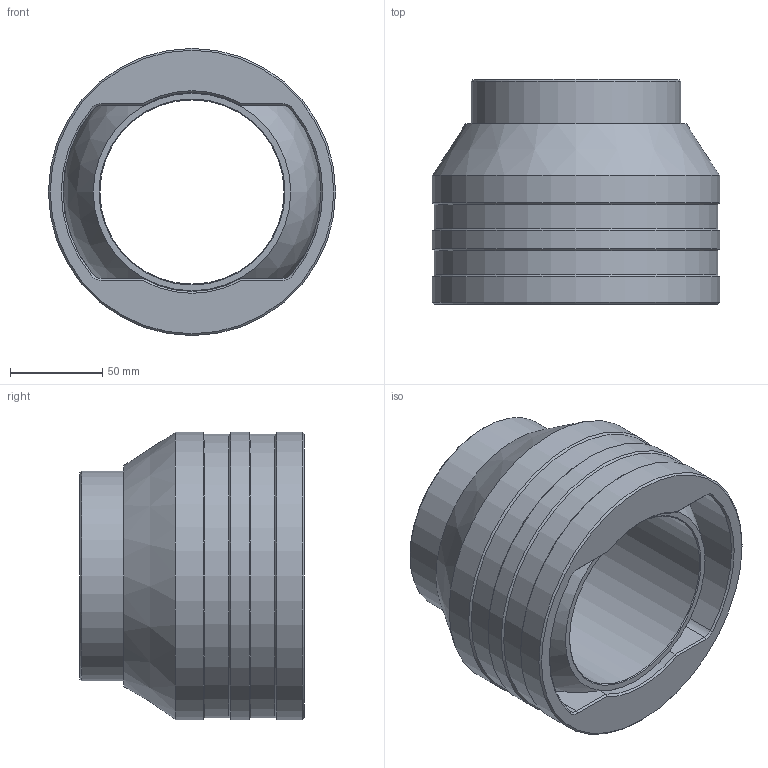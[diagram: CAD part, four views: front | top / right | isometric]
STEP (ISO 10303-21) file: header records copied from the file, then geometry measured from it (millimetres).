
FILE_DESCRIPTION(('STEP AP214'),'1');
FILE_NAME('C:/Projets/Serie 10.xx.xx/10.11.10.step','2011-11-10T15:41:19',(' '),(' '),'Spatial InterOp 3D',' ',' ');
FILE_SCHEMA(('automotive_design'));
Length unit declared in the file: metre
Products named in the file (3): boitier 10; rotule 10; 1
Bounding box: 156 x 122 x 156 mm (x, y, z)
Volume: 923501.8 mm3; surface area: 186734.9 mm2
Topology: 2 solids, 2 shells, 49 faces, 1318 edges, 2486 vertices
Faces by surface type: cone 18, cylinder 16, plane 13, sphere 2
Full cylindrical faces by diameter (mm): 100 x1, 108 x1, 114 x1, 154 x2, 156 x3
Entity records: 16269 total; most frequent: CARTESIAN_POINT 1477, DIRECTION 1450, STYLED_ITEM 1262, PRESENTATION_STYLE_ASSIGNMENT 1262, COLOUR_RGB 1262, LINE 1232, VECTOR 1232, TRIMMED_CURVE 1213
